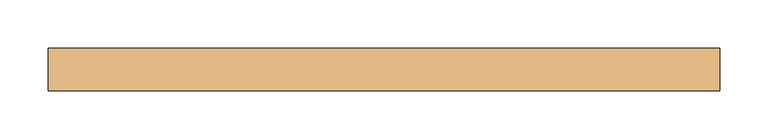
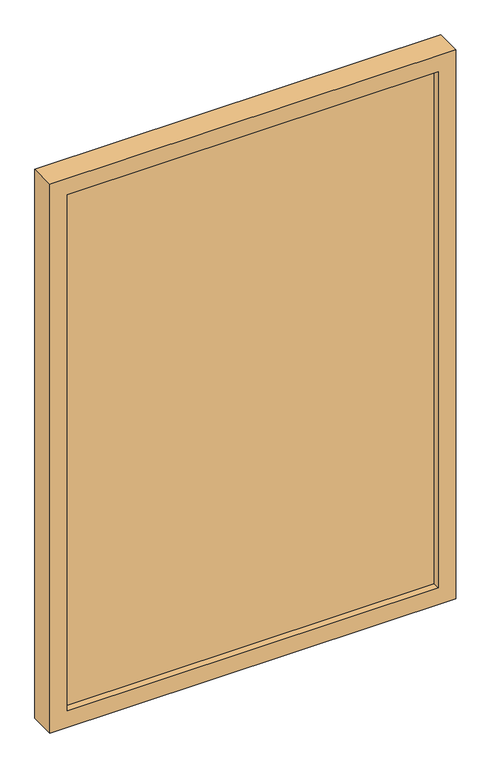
"""IFC4 building model written with IfcOpenShell, lengths in millimetres: door geometry, PUERTA_REJA_BAJA : PUERTA_REJA_BAJA."""

from ifc_helpers import new_model, si_unit, frame, origin, place, context, project, spatial, polyline, outline, extrude, source, transform, mapped, element, save


def door_a481ca0a(model_context):
    return source(origin(), model_context, "Body", "SweptSolid", [
        extrude(outline(polyline([(319.5873512, 28.3), (-319.5873512, 28.3), (-319.5873512, 47.3), (319.5873512, 47.3), (319.5873512, 28.3)])), frame((0.0, 0.0, 30.0), z_axis=(0.0, 0.0, 1.0), x_axis=(1.0, 0.0, 0.0)), (0.0, 0.0, 1.0), 940.0),
        extrude(outline(polyline([(1000.0, -349.5873512), (0.0, -349.5873512), (0.0, 349.5873512), (1000.0, 349.5873512), (1000.0, -349.5873512)]), holes=[polyline([(970.0, -319.5873512), (970.0, 319.5873512), (30.0, 319.5873512), (30.0, -319.5873512), (970.0, -319.5873512)])]), frame((0.0, 15.6, 0.0), z_axis=(0.0, 1.0, 0.0), x_axis=(0.0, 0.0, 1.0)), (0.0, 0.0, 1.0), 44.4),
    ])


if __name__ == "__main__":
    model = new_model("IFC4")
    model_context = context("Model", 3, world=origin())
    ifc_project = project(units=[si_unit("LENGTHUNIT", "METRE", prefix="MILLI")], contexts=[model_context])
    site = spatial("IfcSite", under=ifc_project)
    building = spatial("IfcBuilding", under=site)
    placement = place(None, origin())
    door_shape = door_a481ca0a(model_context)
    element("IfcDoor", 1, ObjectType="PUERTA_REJA_BAJA : PUERTA_REJA_BAJA", at=placement, inside=building, context=model_context, shape_type="MappedRepresentation", body=[
        mapped(door_shape, transform((0.0, 0.0, 0.0), x_axis=(1.0, 0.0, 0.0), y_axis=(0.0, 1.0, 0.0), z_axis=(0.0, 0.0, 1.0))),
    ])
    save(model, "model.ifc")
